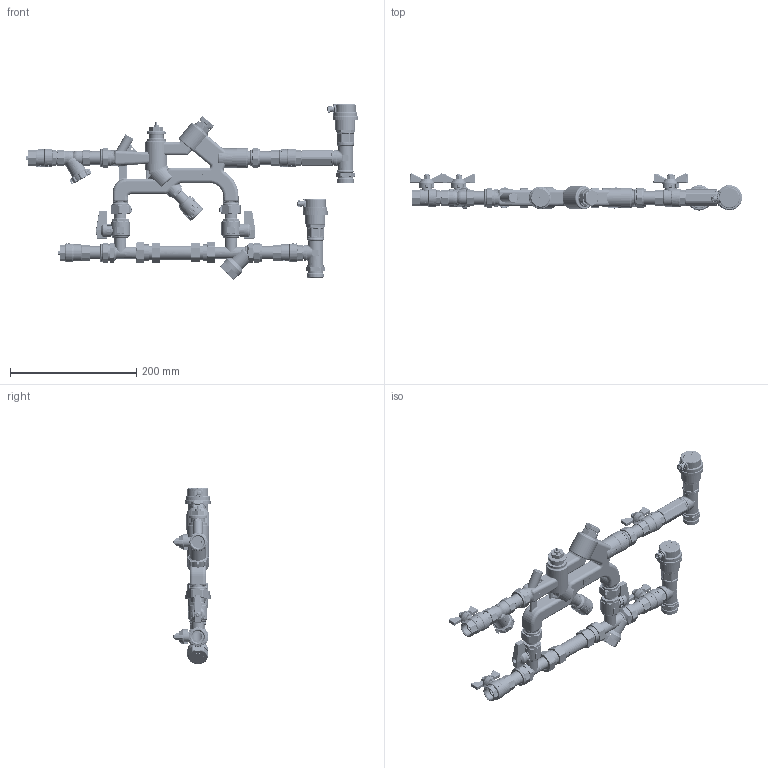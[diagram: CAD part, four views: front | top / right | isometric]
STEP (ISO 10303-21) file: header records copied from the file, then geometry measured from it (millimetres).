
FILE_DESCRIPTION(('TFLEX Exchange Step'),'2;1');
FILE_NAME('VT.CMP.0000.R.RA.stp', '2023-10-24T19:30:19+03:00',('denis'),('Unknown organisation'),'TFLEX Exchange 2023.0','T-FLEX CAD','Unknown authorisation');
FILE_SCHEMA( ('AUTOMOTIVE_DESIGN { 1 0 10303 214 1 1 1 1 }') );
Length unit declared in the file: millimetre
Products named in the file (1): VT.CMP.0000.R.RA
Bounding box: 525.53 x 58.67 x 277.67 mm (x, y, z)
Volume: 866170.9 mm3; surface area: 325803.5 mm2
Topology: 83 solids, 85 shells, 11573 faces, 29888 edges, 18979 vertices
Faces by surface type: cylinder 3763, plane 3406, bspline 2897, torus 945, cone 394, sphere 168
Full cylindrical faces by diameter (mm): 1.5 x2, 2 x2, 3 x1, 3.2 x1, 3.464 x2, 4 x1, 5 x2, 6 x8, 7.953 x2, 8 x7, 8.9 x4, 8.917 x1, 9 x2, 9.332 x2, 10 x3, 11 x1, 11.3 x1, 11.5 x1, 12 x7, 12.5 x2, 13.239 x1, 13.5 x4, 14 x8, 14.1 x1, 14.5 x2, 15 x17, 15.5 x1, 15.729 x4, 16 x10, 16.6 x1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
Entity records: 518825 total; most frequent: CARTESIAN_POINT 269579, ORIENTED_EDGE 59518, DIRECTION 38971, EDGE_CURVE 29759, VERTEX_POINT 18971, AXIS2_PLACEMENT_3D 14332, B_SPLINE_CURVE_WITH_KNOTS 13174, EDGE_LOOP 12320
